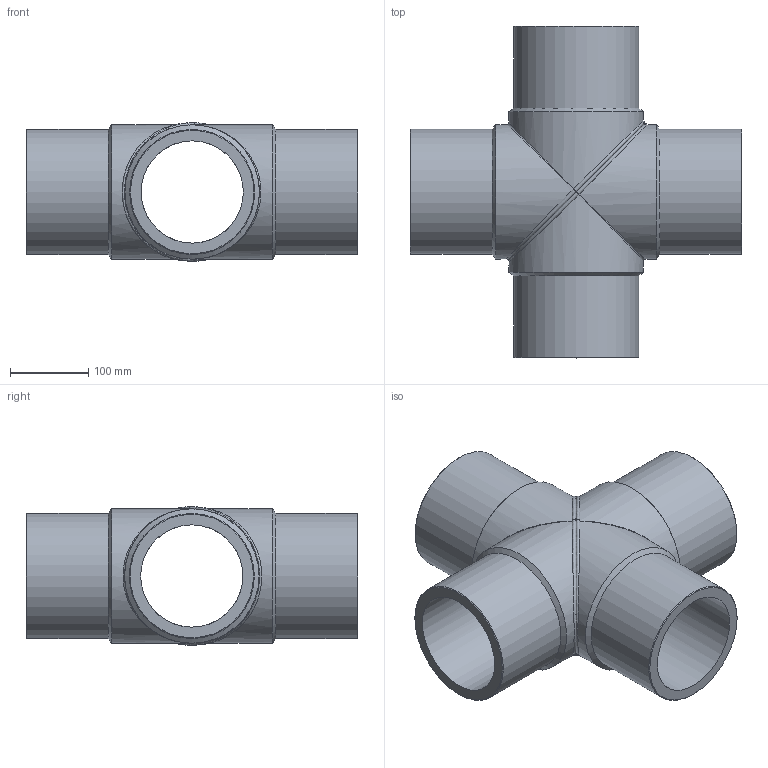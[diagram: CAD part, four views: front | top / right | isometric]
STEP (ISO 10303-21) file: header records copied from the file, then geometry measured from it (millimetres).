
FILE_DESCRIPTION(/* description */ ('Unknown'),/* implementation_level */ '2;1');
FILE_NAME(/* name */ 'CRP160C',/* time_stamp */ '2022-07-07T17:04:48+02:00',/* author */ ('Unknown'),/* organization */ ('Unknown'),/* preprocessor_version */ 'ST-DEVELOPER v18.102',/* originating_system */ 'Solid Edge',/* authorisation */ 'Unknown');
FILE_SCHEMA (('AUTOMOTIVE_DESIGN {1 0 10303 214 3 1 1}'));
Length unit declared in the file: millimetre
Products named in the file (3): CRP160C; CRP160C_mir
Assembly tree (2 placements, depth 2):
  CRP160C
    CRP160C
    CRP160C_mir
Bounding box: 424.5 x 424.5 x 176.99 mm (x, y, z)
Volume: 5079960.6 mm3; surface area: 665760.9 mm2
Topology: 2 solids, 2 shells, 32 faces, 90 edges, 60 vertices
Faces by surface type: cylinder 12, cone 8, plane 6, bspline 6
Full cylindrical faces by diameter (mm): 130.8 x4, 160 x4, 172 x4
Entity records: 3193 total; most frequent: CARTESIAN_POINT 2465, DIRECTION 126, ORIENTED_EDGE 120, AXIS2_PLACEMENT_3D 63, EDGE_CURVE 60, EDGE_LOOP 58, FACE_BOUND 58, VERTEX_POINT 50
